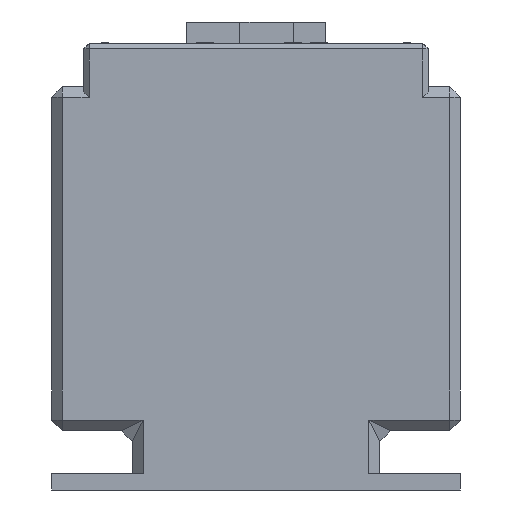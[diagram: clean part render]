
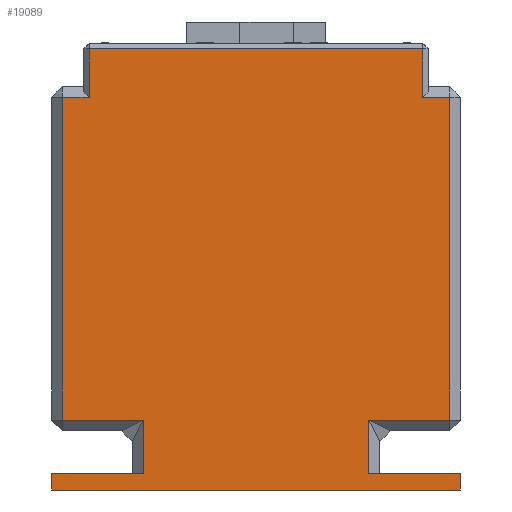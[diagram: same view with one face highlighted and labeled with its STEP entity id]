
A CAD part, left-side view. The second image highlights one B-rep face of the part: STEP entity #19089.
In plain terms, the highlighted planar face has unit normal (-1, 0, 0).
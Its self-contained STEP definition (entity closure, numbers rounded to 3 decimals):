
#1975=FACE_OUTER_BOUND('',#3111,.T.);
#3111=EDGE_LOOP('',(#15633,#15634,#15635,#15636,#15637,#15638,#15639,#15640,
#15641,#15642,#15643,#15644,#15645,#15646,#15647,#15648));
#4826=LINE('',#31894,#6738);
#4828=LINE('',#31897,#6740);
#4832=LINE('',#31907,#6744);
#4862=LINE('',#31970,#6774);
#4864=LINE('',#31973,#6776);
#4870=LINE('',#31982,#6782);
#4879=LINE('',#31998,#6791);
#4914=LINE('',#32071,#6826);
#4917=LINE('',#32076,#6829);
#4921=LINE('',#32082,#6833);
#4925=LINE('',#32090,#6837);
#4929=LINE('',#32098,#6841);
#4930=LINE('',#32100,#6842);
#4931=LINE('',#32102,#6843);
#4932=LINE('',#32104,#6844);
#4933=LINE('',#32105,#6845);
#6738=VECTOR('',#22829,10.);
#6740=VECTOR('',#22833,10.);
#6744=VECTOR('',#22843,10.);
#6774=VECTOR('',#22895,10.);
#6776=VECTOR('',#22899,10.);
#6782=VECTOR('',#22911,10.);
#6791=VECTOR('',#22926,10.);
#6826=VECTOR('',#22991,10.);
#6829=VECTOR('',#22998,10.);
#6833=VECTOR('',#23004,10.);
#6837=VECTOR('',#23012,10.);
#6841=VECTOR('',#23020,10.);
#6842=VECTOR('',#23021,10.);
#6843=VECTOR('',#23022,10.);
#6844=VECTOR('',#23023,10.);
#6845=VECTOR('',#23024,10.);
#8546=VERTEX_POINT('',#31878);
#8548=VERTEX_POINT('',#31887);
#8550=VERTEX_POINT('',#31892);
#8552=VERTEX_POINT('',#31903);
#8559=VERTEX_POINT('',#31920);
#8565=VERTEX_POINT('',#31934);
#8570=VERTEX_POINT('',#31946);
#8578=VERTEX_POINT('',#31994);
#8594=VERTEX_POINT('',#32046);
#8598=VERTEX_POINT('',#32054);
#8600=VERTEX_POINT('',#32063);
#8605=VERTEX_POINT('',#32088);
#8607=VERTEX_POINT('',#32097);
#8608=VERTEX_POINT('',#32099);
#8609=VERTEX_POINT('',#32101);
#8610=VERTEX_POINT('',#32103);
#10965=EDGE_CURVE('',#8550,#8548,#4826,.T.);
#10967=EDGE_CURVE('',#8548,#8546,#4828,.T.);
#10972=EDGE_CURVE('',#8546,#8552,#4832,.T.);
#11002=EDGE_CURVE('',#8552,#8570,#4862,.T.);
#11004=EDGE_CURVE('',#8570,#8565,#4864,.T.);
#11010=EDGE_CURVE('',#8565,#8559,#4870,.T.);
#11019=EDGE_CURVE('',#8559,#8578,#4879,.T.);
#11054=EDGE_CURVE('',#8600,#8598,#4914,.T.);
#11057=EDGE_CURVE('',#8594,#8600,#4917,.T.);
#11061=EDGE_CURVE('',#8598,#8550,#4921,.T.);
#11065=EDGE_CURVE('',#8605,#8594,#4925,.T.);
#11069=EDGE_CURVE('',#8605,#8607,#4929,.T.);
#11070=EDGE_CURVE('',#8608,#8607,#4930,.T.);
#11071=EDGE_CURVE('',#8608,#8609,#4931,.T.);
#11072=EDGE_CURVE('',#8609,#8610,#4932,.T.);
#11073=EDGE_CURVE('',#8610,#8578,#4933,.T.);
#15633=ORIENTED_EDGE('',*,*,#11061,.F.);
#15634=ORIENTED_EDGE('',*,*,#11054,.F.);
#15635=ORIENTED_EDGE('',*,*,#11057,.F.);
#15636=ORIENTED_EDGE('',*,*,#11065,.F.);
#15637=ORIENTED_EDGE('',*,*,#11069,.T.);
#15638=ORIENTED_EDGE('',*,*,#11070,.F.);
#15639=ORIENTED_EDGE('',*,*,#11071,.T.);
#15640=ORIENTED_EDGE('',*,*,#11072,.T.);
#15641=ORIENTED_EDGE('',*,*,#11073,.T.);
#15642=ORIENTED_EDGE('',*,*,#11019,.F.);
#15643=ORIENTED_EDGE('',*,*,#11010,.F.);
#15644=ORIENTED_EDGE('',*,*,#11004,.F.);
#15645=ORIENTED_EDGE('',*,*,#11002,.F.);
#15646=ORIENTED_EDGE('',*,*,#10972,.F.);
#15647=ORIENTED_EDGE('',*,*,#10967,.F.);
#15648=ORIENTED_EDGE('',*,*,#10965,.F.);
#18012=PLANE('',#20002);
#19089=ADVANCED_FACE('',(#1975),#18012,.T.);
#20002=AXIS2_PLACEMENT_3D('',#32096,#23018,#23019);
#22829=DIRECTION('',(0.,0.,1.));
#22833=DIRECTION('',(0.,-1.,0.));
#22843=DIRECTION('',(0.,0.,-1.));
#22895=DIRECTION('',(0.,-1.,0.));
#22899=DIRECTION('',(0.,0.,-1.));
#22911=DIRECTION('',(0.,1.,0.));
#22926=DIRECTION('',(0.,0.,-1.));
#22991=DIRECTION('',(0.,0.,1.));
#22998=DIRECTION('',(0.,1.,0.));
#23004=DIRECTION('',(0.,-1.,0.));
#23012=DIRECTION('',(0.,0.,1.));
#23018=DIRECTION('center_axis',(-1.,0.,0.));
#23019=DIRECTION('ref_axis',(0.,-1.,0.));
#23020=DIRECTION('',(0.,1.,0.));
#23021=DIRECTION('',(0.,0.,1.));
#23022=DIRECTION('',(0.,-1.,0.));
#23023=DIRECTION('',(0.,0.,1.));
#23024=DIRECTION('',(0.,1.,0.));
#31878=CARTESIAN_POINT('',(0.,7.,82.));
#31887=CARTESIAN_POINT('',(0.,69.,82.));
#31892=CARTESIAN_POINT('',(0.,69.,73.));
#31894=CARTESIAN_POINT('',(0.,69.,43.5));
#31897=CARTESIAN_POINT('',(0.,57.,82.));
#31903=CARTESIAN_POINT('',(0.,7.,73.));
#31907=CARTESIAN_POINT('',(0.,7.,43.5));
#31920=CARTESIAN_POINT('',(0.,17.,13.));
#31934=CARTESIAN_POINT('',(0.,2.,13.));
#31946=CARTESIAN_POINT('',(0.,2.,73.));
#31970=CARTESIAN_POINT('',(0.,39.803,73.));
#31973=CARTESIAN_POINT('',(0.,2.,0.));
#31982=CARTESIAN_POINT('',(0.,38.,13.));
#31994=CARTESIAN_POINT('',(0.,17.,3.));
#31998=CARTESIAN_POINT('',(0.,17.,3.5));
#32046=CARTESIAN_POINT('',(0.,59.,13.));
#32054=CARTESIAN_POINT('',(0.,74.,73.));
#32063=CARTESIAN_POINT('',(0.,74.,13.));
#32071=CARTESIAN_POINT('',(0.,74.,0.));
#32076=CARTESIAN_POINT('',(0.,76.,13.));
#32082=CARTESIAN_POINT('',(0.,74.197,73.));
#32088=CARTESIAN_POINT('',(0.,59.,3.));
#32090=CARTESIAN_POINT('',(0.,59.,3.5));
#32096=CARTESIAN_POINT('Origin',(0.,76.,0.));
#32097=CARTESIAN_POINT('',(0.,76.,3.));
#32098=CARTESIAN_POINT('',(0.,76.,3.));
#32099=CARTESIAN_POINT('',(0.,76.,0.));
#32100=CARTESIAN_POINT('',(0.,76.,0.));
#32101=CARTESIAN_POINT('',(0.,0.,0.));
#32102=CARTESIAN_POINT('',(0.,76.,0.));
#32103=CARTESIAN_POINT('',(0.,0.,3.));
#32104=CARTESIAN_POINT('',(0.,0.,0.));
#32105=CARTESIAN_POINT('',(0.,38.,3.));
